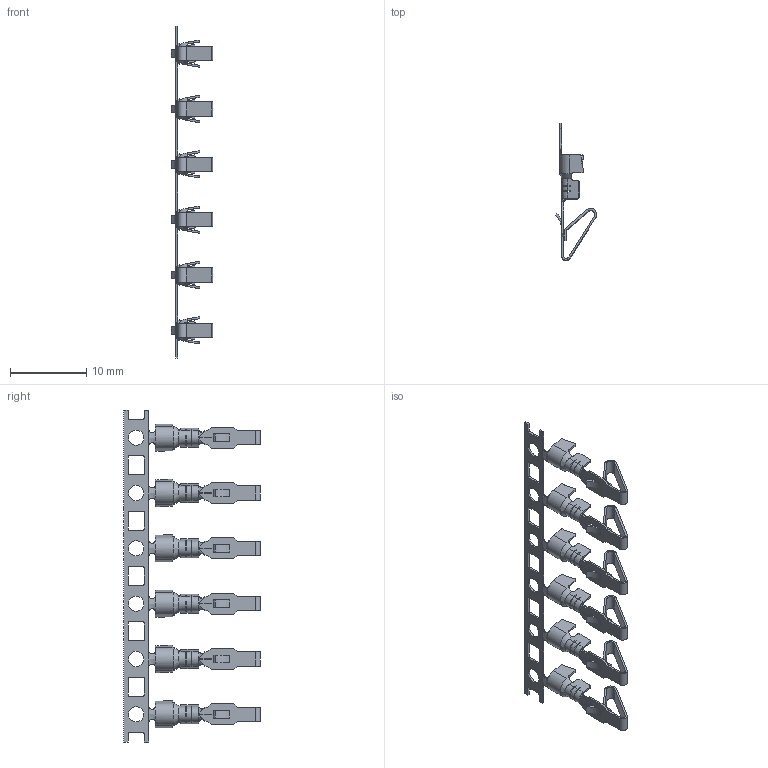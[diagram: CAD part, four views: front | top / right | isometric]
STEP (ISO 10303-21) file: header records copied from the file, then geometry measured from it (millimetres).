
FILE_DESCRIPTION (( 'STEP AP203' ), '1' );
FILE_NAME ('HC-3.96-T（3.96 端子-HCTL）.STEP', '2024-07-08T07:08:57', ( '' ), ( '' ), 'SwSTEP 2.0', 'SolidWorks 2022', '' );
FILE_SCHEMA (( 'CONFIG_CONTROL_DESIGN' ));
Length unit declared in the file: millimetre
Products named in the file (1): HC-3.96-T（3.96 端子-HCTL）
Bounding box: 5.4 x 17.93 x 43.5 mm (x, y, z)
Volume: 140.5 mm3; surface area: 1308.1 mm2
Topology: 1 solids, 1 shells, 772 faces, 2244 edges, 1438 vertices
Faces by surface type: plane 394, cylinder 300, bspline 78
Entity records: 30073 total; most frequent: CARTESIAN_POINT 10761, ORIENTED_EDGE 4464, DIRECTION 3442, EDGE_CURVE 2232, VERTEX_POINT 1438, LINE 1356, VECTOR 1356, AXIS2_PLACEMENT_3D 1043
